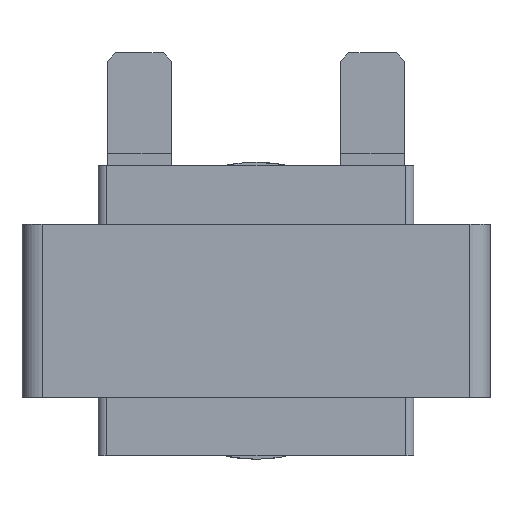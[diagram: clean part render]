
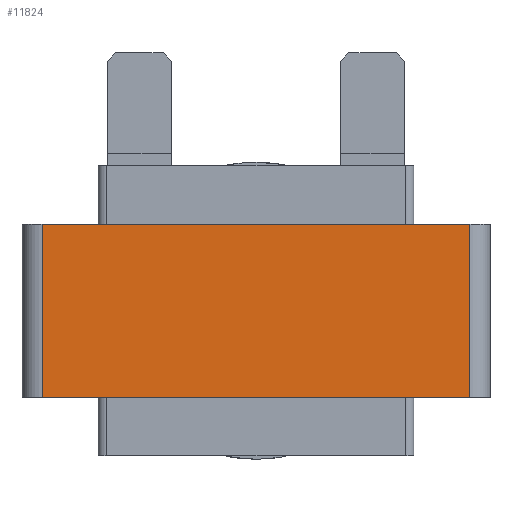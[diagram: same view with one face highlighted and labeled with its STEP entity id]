
A CAD part, front view. The second image highlights one B-rep face of the part: STEP entity #11824.
In plain terms, the highlighted planar face has unit normal (0, -1, 0).
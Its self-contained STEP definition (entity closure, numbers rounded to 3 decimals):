
#501 = CARTESIAN_POINT ( 'NONE',  ( -25.43, -12.041, -10.3 ) ) ;
#656 = CARTESIAN_POINT ( 'NONE',  ( -25.43, -12.041, 10.3 ) ) ;
#1388 = EDGE_LOOP ( 'NONE', ( #12824, #7962, #14638, #13942 ) ) ;
#1962 = VERTEX_POINT ( 'NONE', #13771 ) ;
#1967 = EDGE_CURVE ( 'NONE', #8596, #1962, #3288, .T. ) ;
#3288 = LINE ( 'NONE', #10755, #16621 ) ;
#3451 = EDGE_CURVE ( 'NONE', #14621, #8596, #6921, .T. ) ;
#4474 = VECTOR ( 'NONE', #4780, 1000. ) ;
#4780 = DIRECTION ( 'NONE',  ( 1., 0., 0. ) ) ;
#4824 = DIRECTION ( 'NONE',  ( 0., 0., -1. ) ) ;
#4934 = VECTOR ( 'NONE', #4824, 1000. ) ;
#5581 = CARTESIAN_POINT ( 'NONE',  ( -25.43, -12.041, 10.3 ) ) ;
#6569 = LINE ( 'NONE', #12595, #4934 ) ;
#6827 = DIRECTION ( 'NONE',  ( 1., 0., 0. ) ) ;
#6915 = DIRECTION ( 'NONE',  ( 0., 1., 0. ) ) ;
#6921 = LINE ( 'NONE', #656, #4474 ) ;
#6966 = EDGE_CURVE ( 'NONE', #14621, #9460, #6569, .T. ) ;
#7962 = ORIENTED_EDGE ( 'NONE', *, *, #1967, .F. ) ;
#8163 = PLANE ( 'NONE',  #11957 ) ;
#8166 = CARTESIAN_POINT ( 'NONE',  ( -25.43, -12.041, 10.3 ) ) ;
#8530 = CARTESIAN_POINT ( 'NONE',  ( 25.43, -12.041, 10.3 ) ) ;
#8596 = VERTEX_POINT ( 'NONE', #8530 ) ;
#8758 = FACE_OUTER_BOUND ( 'NONE', #1388, .T. ) ;
#9460 = VERTEX_POINT ( 'NONE', #501 ) ;
#10755 = CARTESIAN_POINT ( 'NONE',  ( 25.43, -12.041, 10.3 ) ) ;
#11787 = LINE ( 'NONE', #15788, #13999 ) ;
#11824 = ADVANCED_FACE ( 'NONE', ( #8758 ), #8163, .F. ) ;
#11957 = AXIS2_PLACEMENT_3D ( 'NONE', #5581, #6915, #12115 ) ;
#12115 = DIRECTION ( 'NONE',  ( 0., 0., 1. ) ) ;
#12595 = CARTESIAN_POINT ( 'NONE',  ( -25.43, -12.041, 10.3 ) ) ;
#12824 = ORIENTED_EDGE ( 'NONE', *, *, #15453, .T. ) ;
#13771 = CARTESIAN_POINT ( 'NONE',  ( 25.43, -12.041, -10.3 ) ) ;
#13942 = ORIENTED_EDGE ( 'NONE', *, *, #6966, .T. ) ;
#13999 = VECTOR ( 'NONE', #6827, 1000. ) ;
#14621 = VERTEX_POINT ( 'NONE', #8166 ) ;
#14638 = ORIENTED_EDGE ( 'NONE', *, *, #3451, .F. ) ;
#14904 = DIRECTION ( 'NONE',  ( 0., 0., -1. ) ) ;
#15453 = EDGE_CURVE ( 'NONE', #9460, #1962, #11787, .T. ) ;
#15788 = CARTESIAN_POINT ( 'NONE',  ( -25.43, -12.041, -10.3 ) ) ;
#16621 = VECTOR ( 'NONE', #14904, 1000. ) ;
